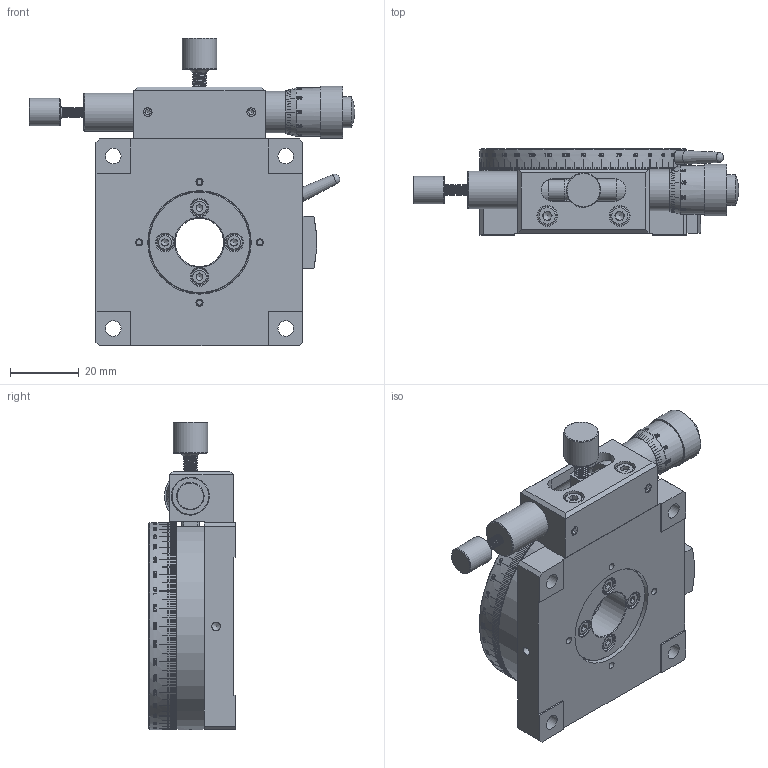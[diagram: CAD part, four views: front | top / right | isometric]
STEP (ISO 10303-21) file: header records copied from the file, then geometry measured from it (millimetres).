
FILE_DESCRIPTION (( 'STEP AP203' ), '1' );
FILE_NAME ('BPR60.STEP', '2024-07-09T11:57:49', ( 'Windows User' ), ( 'P R C' ), 'SwSTEP 2.0', 'SolidWorks 2024', '' );
FILE_SCHEMA (( 'CONFIG_CONTROL_DESIGN' ));
Products named in the file (1): BPR60
Bounding box: 94.34 x 25 x 89.2 mm (x, y, z)
Volume: 81409.4 mm3; surface area: 45887.1 mm2
Topology: 28 solids, 28 shells, 3811 faces, 10287 edges, 6804 vertices
Faces by surface type: bspline 2103, plane 755, cylinder 682, cone 260, torus 9, sphere 2
Full cylindrical faces by diameter (mm): 2 x1, 2.05 x10, 2.5 x24, 2.6 x1, 2.7 x4, 2.8 x6, 2.9 x2, 3 x5, 3.3 x6, 3.4 x3, 4 x2, 4.5 x8, 5 x4, 5.2 x1, 5.5 x3, 6 x4, 6.35 x2, 8 x5, 8.5 x1, 9 x2, 9.5 x4, 10 x1, 11 x1, 12 x1, 13.6 x1, 14 x2, 14.1 x1, 15 x2, 16.1 x1, 16.15 x1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
Entity records: 221650 total; most frequent: CARTESIAN_POINT 148525, ORIENTED_EDGE 20000, EDGE_CURVE 10000, B_SPLINE_CURVE_WITH_KNOTS 8186, VERTEX_POINT 6731, DIRECTION 6417, EDGE_LOOP 4373, FACE_OUTER_BOUND 3942
